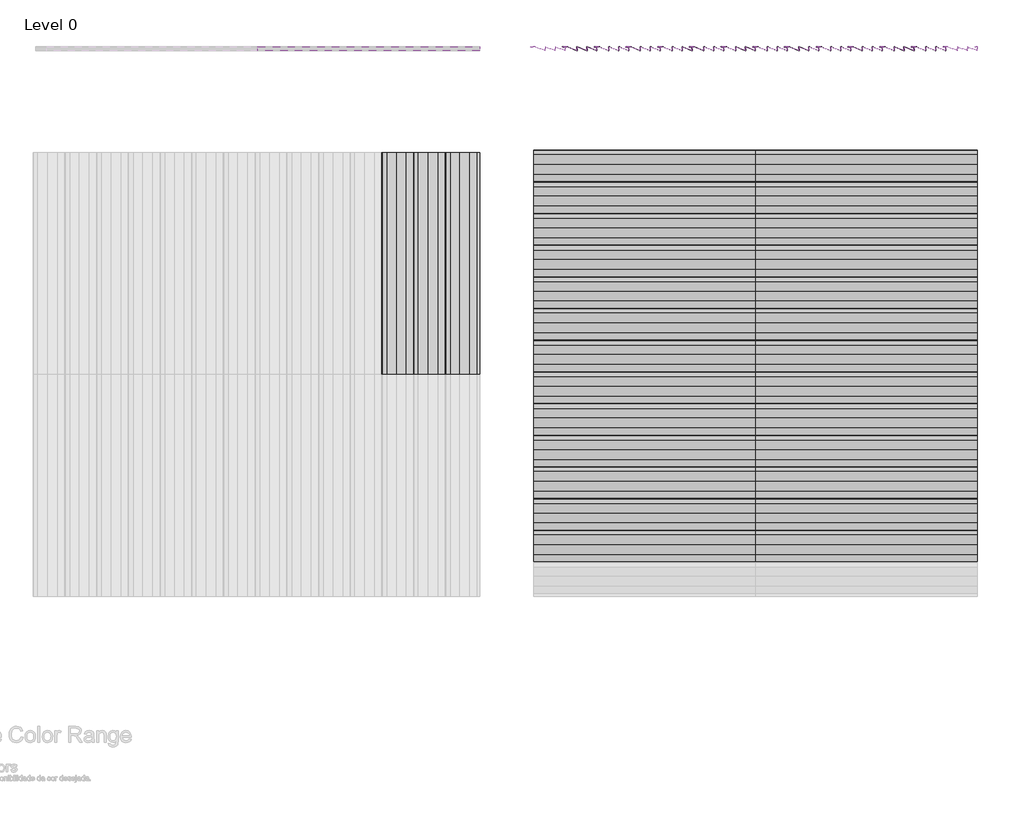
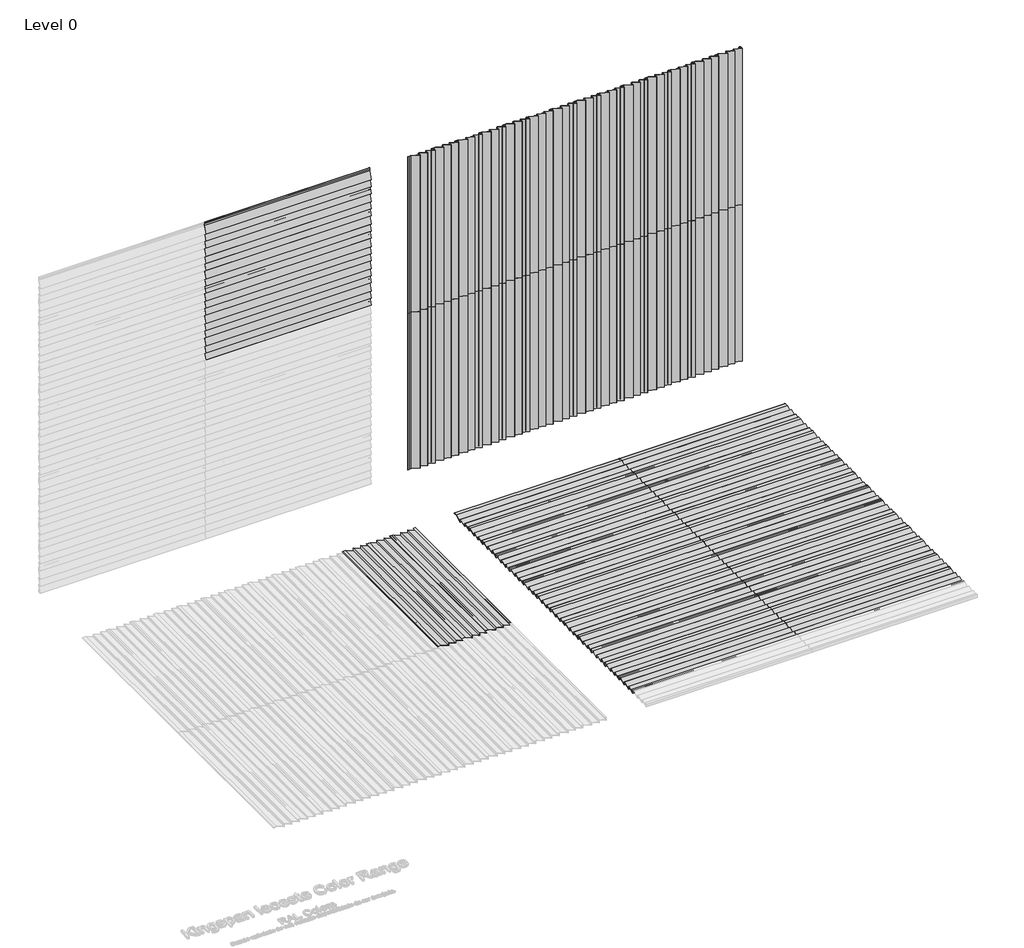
# One storey, part 2 of 2: 63 proxies.
"""IFC4 building model written with IfcOpenShell, lengths in millimetres."""

from ifc_helpers import new_model, si_unit, origin, place, context, project, spatial, transform, mapped, element, save
from components import ps1_0_standard_panel_ns_bf2b593f, ps1_0_standard_panel_ns_1c35b6c5

model = new_model("IFC4")

# Units and contexts
model_context = context("Model", 3, world=origin())
ifc_project = project(units=[si_unit("LENGTHUNIT", "METRE", prefix="MILLI")], contexts=[model_context])

# Site, building, storey
site = spatial("IfcSite", under=ifc_project)
building = spatial("IfcBuilding", under=site)
storey = spatial("IfcBuildingStorey", under=building, Name="Level 0", Elevation=0.0)

# Proxies
placement = place(None, origin())
ps1_0_standard_panel_ns_shape = ps1_0_standard_panel_ns_bf2b593f(model_context)
element("IfcBuildingElementProxy", 1, Name="PS1.0 : Standard Panel_NS", ObjectType="PS1.0 : Standard Panel_NS", at=placement, inside=storey, context=model_context, shape_type="MappedRepresentation", body=[
    mapped(ps1_0_standard_panel_ns_shape, transform((2789.7088665, 5063.0274074, 0.0), x_axis=(0.0, 0.0, 1.0), y_axis=(-1.0, 0.0, 0.0), z_axis=(0.0, -1.0, 0.0))),
])
element("IfcBuildingElementProxy", 2, Name="PS1.0 : Standard Panel_NS", ObjectType="PS1.0 : Standard Panel_NS", at=placement, inside=storey, context=model_context, shape_type="MappedRepresentation", body=[
    mapped(ps1_0_standard_panel_ns_shape, transform((2789.7088665, 5063.0274074, 2100.0), x_axis=(0.0, 0.0, 1.0), y_axis=(-1.0, 0.0, 0.0), z_axis=(0.0, -1.0, 0.0))),
])
element("IfcBuildingElementProxy", 3, Name="PS1.0 : Standard Panel_NS", ObjectType="PS1.0 : Standard Panel_NS", at=placement, inside=storey, context=model_context, shape_type="MappedRepresentation", body=[
    mapped(ps1_0_standard_panel_ns_shape, transform((-1317.7637295, 5063.0274074, 2700.0), x_axis=(1.0, 0.0, 0.0), y_axis=(0.0, 0.0, 1.0), z_axis=(0.0, -1.0, 0.0))),
])
element("IfcBuildingElementProxy", 4, Name="PS1.0 : Standard Panel_NS", ObjectType="PS1.0 : Standard Panel_NS", at=placement, inside=storey, context=model_context, shape_type="MappedRepresentation", body=[
    mapped(ps1_0_standard_panel_ns_shape, transform((5189.7088665, 5063.0274074, 0.0), x_axis=(0.0, 0.0, 1.0), y_axis=(-1.0, 0.0, 0.0), z_axis=(0.0, -1.0, 0.0))),
])
element("IfcBuildingElementProxy", 5, Name="PS1.0 : Standard Panel_NS", ObjectType="PS1.0 : Standard Panel_NS", at=placement, inside=storey, context=model_context, shape_type="MappedRepresentation", body=[
    mapped(ps1_0_standard_panel_ns_shape, transform((5189.7088665, 5063.0274074, 2100.0), x_axis=(0.0, 0.0, 1.0), y_axis=(-1.0, 0.0, 0.0), z_axis=(0.0, -1.0, 0.0))),
])
ps1_0_standard_panel_ns_2_shape = ps1_0_standard_panel_ns_1c35b6c5(model_context)
element("IfcBuildingElementProxy", 6, Name="PS1.0 : Standard Panel_NS", ObjectType="PS1.0 : Standard Panel_NS", at=placement, inside=storey, context=model_context, shape_type="MappedRepresentation", body=[
    mapped(ps1_0_standard_panel_ns_2_shape, transform((1289.7088668, 158.3113453, 0.0), x_axis=(1.0, 0.0, 0.0), y_axis=(0.0, 1.0, 0.0), z_axis=(0.0, 0.0, 1.0))),
])
element("IfcBuildingElementProxy", 7, Name="PS1.0 : Standard Panel_NS", ObjectType="PS1.0 : Standard Panel_NS", at=placement, inside=storey, context=model_context, shape_type="MappedRepresentation", body=[
    mapped(ps1_0_standard_panel_ns_2_shape, transform((1289.7088668, 2558.3113453, 0.0), x_axis=(1.0, 0.0, 0.0), y_axis=(0.0, 1.0, 0.0), z_axis=(0.0, 0.0, 1.0))),
])
element("IfcBuildingElementProxy", 8, Name="PS1.0 : Standard Panel_NS", ObjectType="PS1.0 : Standard Panel_NS", at=placement, inside=storey, context=model_context, shape_type="MappedRepresentation", body=[
    mapped(ps1_0_standard_panel_ns_2_shape, transform((482.2362703, 1958.3113453, 0.0), x_axis=(0.0, 1.0, 0.0), y_axis=(-1.0, 0.0, 0.0), z_axis=(0.0, 0.0, 1.0))),
])
element("IfcBuildingElementProxy", 9, Name="PS1.0 : Standard Panel_NS", ObjectType="PS1.0 : Standard Panel_NS", at=placement, inside=storey, context=model_context, shape_type="MappedRepresentation", body=[
    mapped(ps1_0_standard_panel_ns_2_shape, transform((3389.7088668, 158.3113453, 0.0), x_axis=(1.0, 0.0, 0.0), y_axis=(0.0, 1.0, 0.0), z_axis=(0.0, 0.0, 1.0))),
])
element("IfcBuildingElementProxy", 10, Name="PS1.0 : Standard Panel_NS", ObjectType="PS1.0 : Standard Panel_NS", at=placement, inside=storey, context=model_context, shape_type="MappedRepresentation", body=[
    mapped(ps1_0_standard_panel_ns_2_shape, transform((3389.7088668, 2558.3113453, 0.0), x_axis=(1.0, 0.0, 0.0), y_axis=(0.0, 1.0, 0.0), z_axis=(0.0, 0.0, 1.0))),
])
element("IfcBuildingElementProxy", 11, Name="PS1.0 : Standard Panel_NS", ObjectType="PS1.0 : Standard Panel_NS", at=placement, inside=storey, context=model_context, shape_type="MappedRepresentation", body=[
    mapped(ps1_0_standard_panel_ns_shape, transform((3089.7088665, 5063.0274074, 0.0), x_axis=(0.0, 0.0, 1.0), y_axis=(-1.0, 0.0, 0.0), z_axis=(0.0, -1.0, 0.0))),
])
element("IfcBuildingElementProxy", 12, Name="PS1.0 : Standard Panel_NS", ObjectType="PS1.0 : Standard Panel_NS", at=placement, inside=storey, context=model_context, shape_type="MappedRepresentation", body=[
    mapped(ps1_0_standard_panel_ns_shape, transform((3089.7088665, 5063.0274074, 2100.0), x_axis=(0.0, 0.0, 1.0), y_axis=(-1.0, 0.0, 0.0), z_axis=(0.0, -1.0, 0.0))),
])
element("IfcBuildingElementProxy", 13, Name="PS1.0 : Standard Panel_NS", ObjectType="PS1.0 : Standard Panel_NS", at=placement, inside=storey, context=model_context, shape_type="MappedRepresentation", body=[
    mapped(ps1_0_standard_panel_ns_shape, transform((-1317.7637295, 5063.0274074, 2400.0), x_axis=(1.0, 0.0, 0.0), y_axis=(0.0, 0.0, 1.0), z_axis=(0.0, -1.0, 0.0))),
])
element("IfcBuildingElementProxy", 14, Name="PS1.0 : Standard Panel_NS", ObjectType="PS1.0 : Standard Panel_NS", at=placement, inside=storey, context=model_context, shape_type="MappedRepresentation", body=[
    mapped(ps1_0_standard_panel_ns_shape, transform((5489.7088666, 5063.0274074, 0.0), x_axis=(0.0, 0.0, 1.0), y_axis=(-1.0, 0.0, 0.0), z_axis=(0.0, -1.0, 0.0))),
])
element("IfcBuildingElementProxy", 15, Name="PS1.0 : Standard Panel_NS", ObjectType="PS1.0 : Standard Panel_NS", at=placement, inside=storey, context=model_context, shape_type="MappedRepresentation", body=[
    mapped(ps1_0_standard_panel_ns_shape, transform((5489.7088666, 5063.0274074, 2100.0), x_axis=(0.0, 0.0, 1.0), y_axis=(-1.0, 0.0, 0.0), z_axis=(0.0, -1.0, 0.0))),
])
element("IfcBuildingElementProxy", 16, Name="PS1.0 : Standard Panel_NS", ObjectType="PS1.0 : Standard Panel_NS", at=placement, inside=storey, context=model_context, shape_type="MappedRepresentation", body=[
    mapped(ps1_0_standard_panel_ns_2_shape, transform((1289.7088668, 2258.3113453, 0.0), x_axis=(1.0, 0.0, 0.0), y_axis=(0.0, 1.0, 0.0), z_axis=(0.0, 0.0, 1.0))),
])
element("IfcBuildingElementProxy", 17, Name="PS1.0 : Standard Panel_NS", ObjectType="PS1.0 : Standard Panel_NS", at=placement, inside=storey, context=model_context, shape_type="MappedRepresentation", body=[
    mapped(ps1_0_standard_panel_ns_2_shape, transform((782.2362705, 1958.3113453, 0.0), x_axis=(0.0, 1.0, 0.0), y_axis=(-1.0, 0.0, 0.0), z_axis=(0.0, 0.0, 1.0))),
])
element("IfcBuildingElementProxy", 18, Name="PS1.0 : Standard Panel_NS", ObjectType="PS1.0 : Standard Panel_NS", at=placement, inside=storey, context=model_context, shape_type="MappedRepresentation", body=[
    mapped(ps1_0_standard_panel_ns_2_shape, transform((3389.7088668, 2258.3113453, 0.0), x_axis=(1.0, 0.0, 0.0), y_axis=(0.0, 1.0, 0.0), z_axis=(0.0, 0.0, 1.0))),
])
element("IfcBuildingElementProxy", 19, Name="PS1.0 : Standard Panel_NS", ObjectType="PS1.0 : Standard Panel_NS", at=placement, inside=storey, context=model_context, shape_type="MappedRepresentation", body=[
    mapped(ps1_0_standard_panel_ns_2_shape, transform((1289.7088668, 1358.3113453, 0.0), x_axis=(1.0, 0.0, 0.0), y_axis=(0.0, 1.0, 0.0), z_axis=(0.0, 0.0, 1.0))),
])
element("IfcBuildingElementProxy", 20, Name="PS1.0 : Standard Panel_NS", ObjectType="PS1.0 : Standard Panel_NS", at=placement, inside=storey, context=model_context, shape_type="MappedRepresentation", body=[
    mapped(ps1_0_standard_panel_ns_2_shape, transform((1289.7088668, 3758.3113453, 0.0), x_axis=(1.0, 0.0, 0.0), y_axis=(0.0, 1.0, 0.0), z_axis=(0.0, 0.0, 1.0))),
])
element("IfcBuildingElementProxy", 21, Name="PS1.0 : Standard Panel_NS", ObjectType="PS1.0 : Standard Panel_NS", at=placement, inside=storey, context=model_context, shape_type="MappedRepresentation", body=[
    mapped(ps1_0_standard_panel_ns_2_shape, transform((3389.7088668, 1358.3113453, 0.0), x_axis=(1.0, 0.0, 0.0), y_axis=(0.0, 1.0, 0.0), z_axis=(0.0, 0.0, 1.0))),
])
element("IfcBuildingElementProxy", 22, Name="PS1.0 : Standard Panel_NS", ObjectType="PS1.0 : Standard Panel_NS", at=placement, inside=storey, context=model_context, shape_type="MappedRepresentation", body=[
    mapped(ps1_0_standard_panel_ns_2_shape, transform((3389.7088668, 3758.3113453, 0.0), x_axis=(1.0, 0.0, 0.0), y_axis=(0.0, 1.0, 0.0), z_axis=(0.0, 0.0, 1.0))),
])
element("IfcBuildingElementProxy", 23, Name="PS1.0 : Standard Panel_NS", ObjectType="PS1.0 : Standard Panel_NS", at=placement, inside=storey, context=model_context, shape_type="MappedRepresentation", body=[
    mapped(ps1_0_standard_panel_ns_shape, transform((1589.7088666, 5063.0274074, 0.0), x_axis=(0.0, 0.0, 1.0), y_axis=(-1.0, 0.0, 0.0), z_axis=(0.0, -1.0, 0.0))),
])
element("IfcBuildingElementProxy", 24, Name="PS1.0 : Standard Panel_NS", ObjectType="PS1.0 : Standard Panel_NS", at=placement, inside=storey, context=model_context, shape_type="MappedRepresentation", body=[
    mapped(ps1_0_standard_panel_ns_shape, transform((1589.7088666, 5063.0274074, 2100.0), x_axis=(0.0, 0.0, 1.0), y_axis=(-1.0, 0.0, 0.0), z_axis=(0.0, -1.0, 0.0))),
])
element("IfcBuildingElementProxy", 25, Name="PS1.0 : Standard Panel_NS", ObjectType="PS1.0 : Standard Panel_NS", at=placement, inside=storey, context=model_context, shape_type="MappedRepresentation", body=[
    mapped(ps1_0_standard_panel_ns_shape, transform((-1317.7637295, 5063.0274074, 3900.0), x_axis=(1.0, 0.0, 0.0), y_axis=(0.0, 0.0, 1.0), z_axis=(0.0, -1.0, 0.0))),
])
element("IfcBuildingElementProxy", 26, Name="PS1.0 : Standard Panel_NS", ObjectType="PS1.0 : Standard Panel_NS", at=placement, inside=storey, context=model_context, shape_type="MappedRepresentation", body=[
    mapped(ps1_0_standard_panel_ns_shape, transform((3989.7088665, 5063.0274074, 0.0), x_axis=(0.0, 0.0, 1.0), y_axis=(-1.0, 0.0, 0.0), z_axis=(0.0, -1.0, 0.0))),
])
element("IfcBuildingElementProxy", 27, Name="PS1.0 : Standard Panel_NS", ObjectType="PS1.0 : Standard Panel_NS", at=placement, inside=storey, context=model_context, shape_type="MappedRepresentation", body=[
    mapped(ps1_0_standard_panel_ns_shape, transform((3989.7088665, 5063.0274074, 2100.0), x_axis=(0.0, 0.0, 1.0), y_axis=(-1.0, 0.0, 0.0), z_axis=(0.0, -1.0, 0.0))),
])
element("IfcBuildingElementProxy", 28, Name="PS1.0 : Standard Panel_NS", ObjectType="PS1.0 : Standard Panel_NS", at=placement, inside=storey, context=model_context, shape_type="MappedRepresentation", body=[
    mapped(ps1_0_standard_panel_ns_shape, transform((2489.7088665, 5063.0274074, 0.0), x_axis=(0.0, 0.0, 1.0), y_axis=(-1.0, 0.0, 0.0), z_axis=(0.0, -1.0, 0.0))),
])
element("IfcBuildingElementProxy", 29, Name="PS1.0 : Standard Panel_NS", ObjectType="PS1.0 : Standard Panel_NS", at=placement, inside=storey, context=model_context, shape_type="MappedRepresentation", body=[
    mapped(ps1_0_standard_panel_ns_shape, transform((2489.7088665, 5063.0274074, 2100.0), x_axis=(0.0, 0.0, 1.0), y_axis=(-1.0, 0.0, 0.0), z_axis=(0.0, -1.0, 0.0))),
])
element("IfcBuildingElementProxy", 30, Name="PS1.0 : Standard Panel_NS", ObjectType="PS1.0 : Standard Panel_NS", at=placement, inside=storey, context=model_context, shape_type="MappedRepresentation", body=[
    mapped(ps1_0_standard_panel_ns_shape, transform((-1317.7637295, 5063.0274074, 3000.0), x_axis=(1.0, 0.0, 0.0), y_axis=(0.0, 0.0, 1.0), z_axis=(0.0, -1.0, 0.0))),
])
element("IfcBuildingElementProxy", 31, Name="PS1.0 : Standard Panel_NS", ObjectType="PS1.0 : Standard Panel_NS", at=placement, inside=storey, context=model_context, shape_type="MappedRepresentation", body=[
    mapped(ps1_0_standard_panel_ns_shape, transform((4889.7088665, 5063.0274074, 0.0), x_axis=(0.0, 0.0, 1.0), y_axis=(-1.0, 0.0, 0.0), z_axis=(0.0, -1.0, 0.0))),
])
element("IfcBuildingElementProxy", 32, Name="PS1.0 : Standard Panel_NS", ObjectType="PS1.0 : Standard Panel_NS", at=placement, inside=storey, context=model_context, shape_type="MappedRepresentation", body=[
    mapped(ps1_0_standard_panel_ns_shape, transform((4889.7088665, 5063.0274074, 2100.0), x_axis=(0.0, 0.0, 1.0), y_axis=(-1.0, 0.0, 0.0), z_axis=(0.0, -1.0, 0.0))),
])
element("IfcBuildingElementProxy", 33, Name="PS1.0 : Standard Panel_NS", ObjectType="PS1.0 : Standard Panel_NS", at=placement, inside=storey, context=model_context, shape_type="MappedRepresentation", body=[
    mapped(ps1_0_standard_panel_ns_shape, transform((2189.7088665, 5063.0274074, 0.0), x_axis=(0.0, 0.0, 1.0), y_axis=(-1.0, 0.0, 0.0), z_axis=(0.0, -1.0, 0.0))),
])
element("IfcBuildingElementProxy", 34, Name="PS1.0 : Standard Panel_NS", ObjectType="PS1.0 : Standard Panel_NS", at=placement, inside=storey, context=model_context, shape_type="MappedRepresentation", body=[
    mapped(ps1_0_standard_panel_ns_shape, transform((2189.7088665, 5063.0274074, 2100.0), x_axis=(0.0, 0.0, 1.0), y_axis=(-1.0, 0.0, 0.0), z_axis=(0.0, -1.0, 0.0))),
])
element("IfcBuildingElementProxy", 35, Name="PS1.0 : Standard Panel_NS", ObjectType="PS1.0 : Standard Panel_NS", at=placement, inside=storey, context=model_context, shape_type="MappedRepresentation", body=[
    mapped(ps1_0_standard_panel_ns_shape, transform((-1317.7637295, 5063.0274074, 3300.0), x_axis=(1.0, 0.0, 0.0), y_axis=(0.0, 0.0, 1.0), z_axis=(0.0, -1.0, 0.0))),
])
element("IfcBuildingElementProxy", 36, Name="PS1.0 : Standard Panel_NS", ObjectType="PS1.0 : Standard Panel_NS", at=placement, inside=storey, context=model_context, shape_type="MappedRepresentation", body=[
    mapped(ps1_0_standard_panel_ns_shape, transform((4589.7088665, 5063.0274074, 0.0), x_axis=(0.0, 0.0, 1.0), y_axis=(-1.0, 0.0, 0.0), z_axis=(0.0, -1.0, 0.0))),
])
element("IfcBuildingElementProxy", 37, Name="PS1.0 : Standard Panel_NS", ObjectType="PS1.0 : Standard Panel_NS", at=placement, inside=storey, context=model_context, shape_type="MappedRepresentation", body=[
    mapped(ps1_0_standard_panel_ns_shape, transform((4589.7088665, 5063.0274074, 2100.0), x_axis=(0.0, 0.0, 1.0), y_axis=(-1.0, 0.0, 0.0), z_axis=(0.0, -1.0, 0.0))),
])
element("IfcBuildingElementProxy", 38, Name="PS1.0 : Standard Panel_NS", ObjectType="PS1.0 : Standard Panel_NS", at=placement, inside=storey, context=model_context, shape_type="MappedRepresentation", body=[
    mapped(ps1_0_standard_panel_ns_shape, transform((1889.7088665, 5063.0274074, 0.0), x_axis=(0.0, 0.0, 1.0), y_axis=(-1.0, 0.0, 0.0), z_axis=(0.0, -1.0, 0.0))),
])
element("IfcBuildingElementProxy", 39, Name="PS1.0 : Standard Panel_NS", ObjectType="PS1.0 : Standard Panel_NS", at=placement, inside=storey, context=model_context, shape_type="MappedRepresentation", body=[
    mapped(ps1_0_standard_panel_ns_shape, transform((1889.7088665, 5063.0274074, 2100.0), x_axis=(0.0, 0.0, 1.0), y_axis=(-1.0, 0.0, 0.0), z_axis=(0.0, -1.0, 0.0))),
])
element("IfcBuildingElementProxy", 40, Name="PS1.0 : Standard Panel_NS", ObjectType="PS1.0 : Standard Panel_NS", at=placement, inside=storey, context=model_context, shape_type="MappedRepresentation", body=[
    mapped(ps1_0_standard_panel_ns_shape, transform((-1317.7637295, 5063.0274074, 3600.0), x_axis=(1.0, 0.0, 0.0), y_axis=(0.0, 0.0, 1.0), z_axis=(0.0, -1.0, 0.0))),
])
element("IfcBuildingElementProxy", 41, Name="PS1.0 : Standard Panel_NS", ObjectType="PS1.0 : Standard Panel_NS", at=placement, inside=storey, context=model_context, shape_type="MappedRepresentation", body=[
    mapped(ps1_0_standard_panel_ns_shape, transform((4289.7088665, 5063.0274074, 0.0), x_axis=(0.0, 0.0, 1.0), y_axis=(-1.0, 0.0, 0.0), z_axis=(0.0, -1.0, 0.0))),
])
element("IfcBuildingElementProxy", 42, Name="PS1.0 : Standard Panel_NS", ObjectType="PS1.0 : Standard Panel_NS", at=placement, inside=storey, context=model_context, shape_type="MappedRepresentation", body=[
    mapped(ps1_0_standard_panel_ns_shape, transform((4289.7088665, 5063.0274074, 2100.0), x_axis=(0.0, 0.0, 1.0), y_axis=(-1.0, 0.0, 0.0), z_axis=(0.0, -1.0, 0.0))),
])
element("IfcBuildingElementProxy", 43, Name="PS1.0 : Standard Panel_NS", ObjectType="PS1.0 : Standard Panel_NS", at=placement, inside=storey, context=model_context, shape_type="MappedRepresentation", body=[
    mapped(ps1_0_standard_panel_ns_shape, transform((3689.7088665, 5063.0274074, 0.0), x_axis=(0.0, 0.0, 1.0), y_axis=(-1.0, 0.0, 0.0), z_axis=(0.0, -1.0, 0.0))),
])
element("IfcBuildingElementProxy", 44, Name="PS1.0 : Standard Panel_NS", ObjectType="PS1.0 : Standard Panel_NS", at=placement, inside=storey, context=model_context, shape_type="MappedRepresentation", body=[
    mapped(ps1_0_standard_panel_ns_shape, transform((3689.7088665, 5063.0274074, 2100.0), x_axis=(0.0, 0.0, 1.0), y_axis=(-1.0, 0.0, 0.0), z_axis=(0.0, -1.0, 0.0))),
])
element("IfcBuildingElementProxy", 45, Name="PS1.0 : Standard Panel_NS", ObjectType="PS1.0 : Standard Panel_NS", at=placement, inside=storey, context=model_context, shape_type="MappedRepresentation", body=[
    mapped(ps1_0_standard_panel_ns_shape, transform((3389.7088665, 5063.0274074, 0.0), x_axis=(0.0, 0.0, 1.0), y_axis=(-1.0, 0.0, 0.0), z_axis=(0.0, -1.0, 0.0))),
])
element("IfcBuildingElementProxy", 46, Name="PS1.0 : Standard Panel_NS", ObjectType="PS1.0 : Standard Panel_NS", at=placement, inside=storey, context=model_context, shape_type="MappedRepresentation", body=[
    mapped(ps1_0_standard_panel_ns_shape, transform((3389.7088665, 5063.0274074, 2100.0), x_axis=(0.0, 0.0, 1.0), y_axis=(-1.0, 0.0, 0.0), z_axis=(0.0, -1.0, 0.0))),
])
element("IfcBuildingElementProxy", 47, Name="PS1.0 : Standard Panel_NS", ObjectType="PS1.0 : Standard Panel_NS", at=placement, inside=storey, context=model_context, shape_type="MappedRepresentation", body=[
    mapped(ps1_0_standard_panel_ns_2_shape, transform((1289.7088668, 458.3113453, 0.0), x_axis=(1.0, 0.0, 0.0), y_axis=(0.0, 1.0, 0.0), z_axis=(0.0, 0.0, 1.0))),
])
element("IfcBuildingElementProxy", 48, Name="PS1.0 : Standard Panel_NS", ObjectType="PS1.0 : Standard Panel_NS", at=placement, inside=storey, context=model_context, shape_type="MappedRepresentation", body=[
    mapped(ps1_0_standard_panel_ns_2_shape, transform((1289.7088668, 2858.3113453, 0.0), x_axis=(1.0, 0.0, 0.0), y_axis=(0.0, 1.0, 0.0), z_axis=(0.0, 0.0, 1.0))),
])
element("IfcBuildingElementProxy", 49, Name="PS1.0 : Standard Panel_NS", ObjectType="PS1.0 : Standard Panel_NS", at=placement, inside=storey, context=model_context, shape_type="MappedRepresentation", body=[
    mapped(ps1_0_standard_panel_ns_2_shape, transform((182.2362703, 1958.3113453, 0.0), x_axis=(0.0, 1.0, 0.0), y_axis=(-1.0, 0.0, 0.0), z_axis=(0.0, 0.0, 1.0))),
])
element("IfcBuildingElementProxy", 50, Name="PS1.0 : Standard Panel_NS", ObjectType="PS1.0 : Standard Panel_NS", at=placement, inside=storey, context=model_context, shape_type="MappedRepresentation", body=[
    mapped(ps1_0_standard_panel_ns_2_shape, transform((3389.7088668, 458.3113453, 0.0), x_axis=(1.0, 0.0, 0.0), y_axis=(0.0, 1.0, 0.0), z_axis=(0.0, 0.0, 1.0))),
])
element("IfcBuildingElementProxy", 51, Name="PS1.0 : Standard Panel_NS", ObjectType="PS1.0 : Standard Panel_NS", at=placement, inside=storey, context=model_context, shape_type="MappedRepresentation", body=[
    mapped(ps1_0_standard_panel_ns_2_shape, transform((3389.7088668, 2858.3113453, 0.0), x_axis=(1.0, 0.0, 0.0), y_axis=(0.0, 1.0, 0.0), z_axis=(0.0, 0.0, 1.0))),
])
element("IfcBuildingElementProxy", 52, Name="PS1.0 : Standard Panel_NS", ObjectType="PS1.0 : Standard Panel_NS", at=placement, inside=storey, context=model_context, shape_type="MappedRepresentation", body=[
    mapped(ps1_0_standard_panel_ns_2_shape, transform((1289.7088668, 758.3113453, 0.0), x_axis=(1.0, 0.0, 0.0), y_axis=(0.0, 1.0, 0.0), z_axis=(0.0, 0.0, 1.0))),
])
element("IfcBuildingElementProxy", 53, Name="PS1.0 : Standard Panel_NS", ObjectType="PS1.0 : Standard Panel_NS", at=placement, inside=storey, context=model_context, shape_type="MappedRepresentation", body=[
    mapped(ps1_0_standard_panel_ns_2_shape, transform((1289.7088668, 3158.3113453, 0.0), x_axis=(1.0, 0.0, 0.0), y_axis=(0.0, 1.0, 0.0), z_axis=(0.0, 0.0, 1.0))),
])
element("IfcBuildingElementProxy", 54, Name="PS1.0 : Standard Panel_NS", ObjectType="PS1.0 : Standard Panel_NS", at=placement, inside=storey, context=model_context, shape_type="MappedRepresentation", body=[
    mapped(ps1_0_standard_panel_ns_2_shape, transform((3389.7088668, 758.3113453, 0.0), x_axis=(1.0, 0.0, 0.0), y_axis=(0.0, 1.0, 0.0), z_axis=(0.0, 0.0, 1.0))),
])
element("IfcBuildingElementProxy", 55, Name="PS1.0 : Standard Panel_NS", ObjectType="PS1.0 : Standard Panel_NS", at=placement, inside=storey, context=model_context, shape_type="MappedRepresentation", body=[
    mapped(ps1_0_standard_panel_ns_2_shape, transform((3389.7088668, 3158.3113453, 0.0), x_axis=(1.0, 0.0, 0.0), y_axis=(0.0, 1.0, 0.0), z_axis=(0.0, 0.0, 1.0))),
])
element("IfcBuildingElementProxy", 56, Name="PS1.0 : Standard Panel_NS", ObjectType="PS1.0 : Standard Panel_NS", at=placement, inside=storey, context=model_context, shape_type="MappedRepresentation", body=[
    mapped(ps1_0_standard_panel_ns_2_shape, transform((1289.7088668, 1058.3113453, 0.0), x_axis=(1.0, 0.0, 0.0), y_axis=(0.0, 1.0, 0.0), z_axis=(0.0, 0.0, 1.0))),
])
element("IfcBuildingElementProxy", 57, Name="PS1.0 : Standard Panel_NS", ObjectType="PS1.0 : Standard Panel_NS", at=placement, inside=storey, context=model_context, shape_type="MappedRepresentation", body=[
    mapped(ps1_0_standard_panel_ns_2_shape, transform((1289.7088668, 3458.3113453, 0.0), x_axis=(1.0, 0.0, 0.0), y_axis=(0.0, 1.0, 0.0), z_axis=(0.0, 0.0, 1.0))),
])
element("IfcBuildingElementProxy", 58, Name="PS1.0 : Standard Panel_NS", ObjectType="PS1.0 : Standard Panel_NS", at=placement, inside=storey, context=model_context, shape_type="MappedRepresentation", body=[
    mapped(ps1_0_standard_panel_ns_2_shape, transform((3389.7088668, 1058.3113453, 0.0), x_axis=(1.0, 0.0, 0.0), y_axis=(0.0, 1.0, 0.0), z_axis=(0.0, 0.0, 1.0))),
])
element("IfcBuildingElementProxy", 59, Name="PS1.0 : Standard Panel_NS", ObjectType="PS1.0 : Standard Panel_NS", at=placement, inside=storey, context=model_context, shape_type="MappedRepresentation", body=[
    mapped(ps1_0_standard_panel_ns_2_shape, transform((3389.7088668, 3458.3113453, 0.0), x_axis=(1.0, 0.0, 0.0), y_axis=(0.0, 1.0, 0.0), z_axis=(0.0, 0.0, 1.0))),
])
element("IfcBuildingElementProxy", 60, Name="PS1.0 : Standard Panel_NS", ObjectType="PS1.0 : Standard Panel_NS", at=placement, inside=storey, context=model_context, shape_type="MappedRepresentation", body=[
    mapped(ps1_0_standard_panel_ns_2_shape, transform((1289.7088668, 1658.3113453, 0.0), x_axis=(1.0, 0.0, 0.0), y_axis=(0.0, 1.0, 0.0), z_axis=(0.0, 0.0, 1.0))),
])
element("IfcBuildingElementProxy", 61, Name="PS1.0 : Standard Panel_NS", ObjectType="PS1.0 : Standard Panel_NS", at=placement, inside=storey, context=model_context, shape_type="MappedRepresentation", body=[
    mapped(ps1_0_standard_panel_ns_2_shape, transform((3389.7088668, 1658.3113453, 0.0), x_axis=(1.0, 0.0, 0.0), y_axis=(0.0, 1.0, 0.0), z_axis=(0.0, 0.0, 1.0))),
])
element("IfcBuildingElementProxy", 62, Name="PS1.0 : Standard Panel_NS", ObjectType="PS1.0 : Standard Panel_NS", at=placement, inside=storey, context=model_context, shape_type="MappedRepresentation", body=[
    mapped(ps1_0_standard_panel_ns_2_shape, transform((1289.7088668, 1958.3113453, 0.0), x_axis=(1.0, 0.0, 0.0), y_axis=(0.0, 1.0, 0.0), z_axis=(0.0, 0.0, 1.0))),
])
element("IfcBuildingElementProxy", 63, Name="PS1.0 : Standard Panel_NS", ObjectType="PS1.0 : Standard Panel_NS", at=placement, inside=storey, context=model_context, shape_type="MappedRepresentation", body=[
    mapped(ps1_0_standard_panel_ns_2_shape, transform((3389.7088668, 1958.3113453, 0.0), x_axis=(1.0, 0.0, 0.0), y_axis=(0.0, 1.0, 0.0), z_axis=(0.0, 0.0, 1.0))),
])

save(model, "model.ifc")
